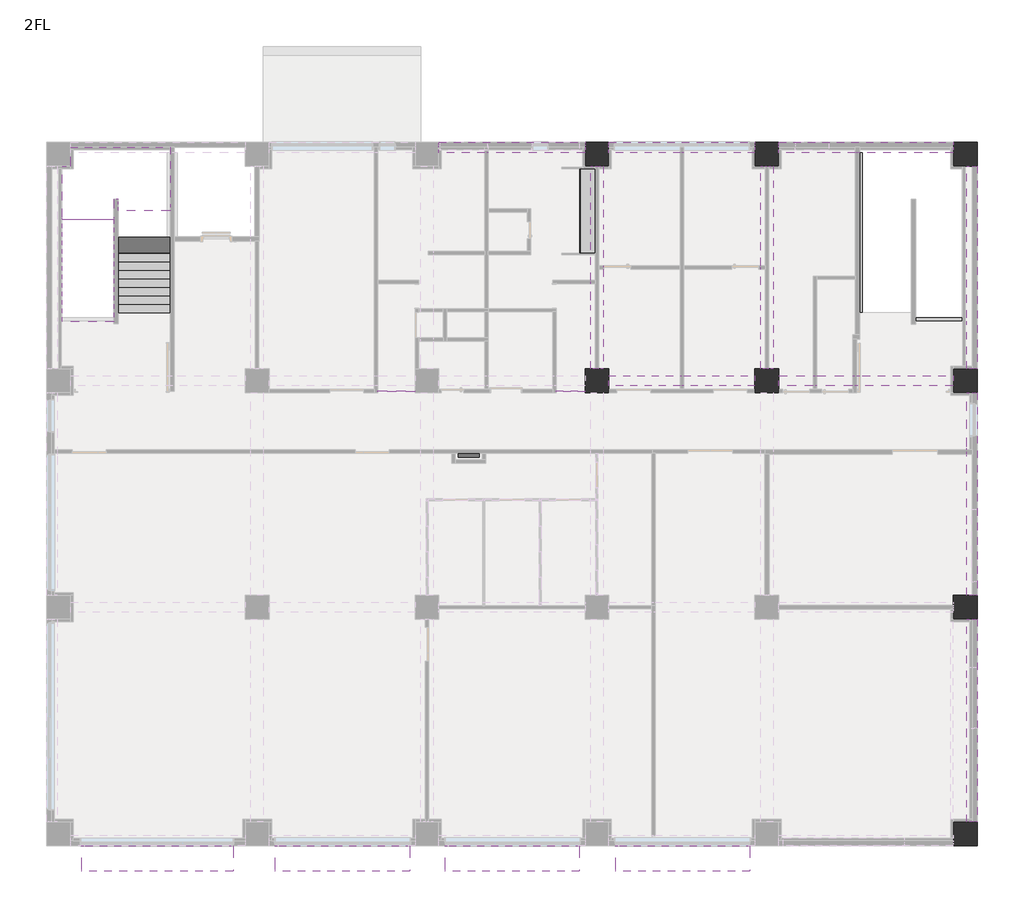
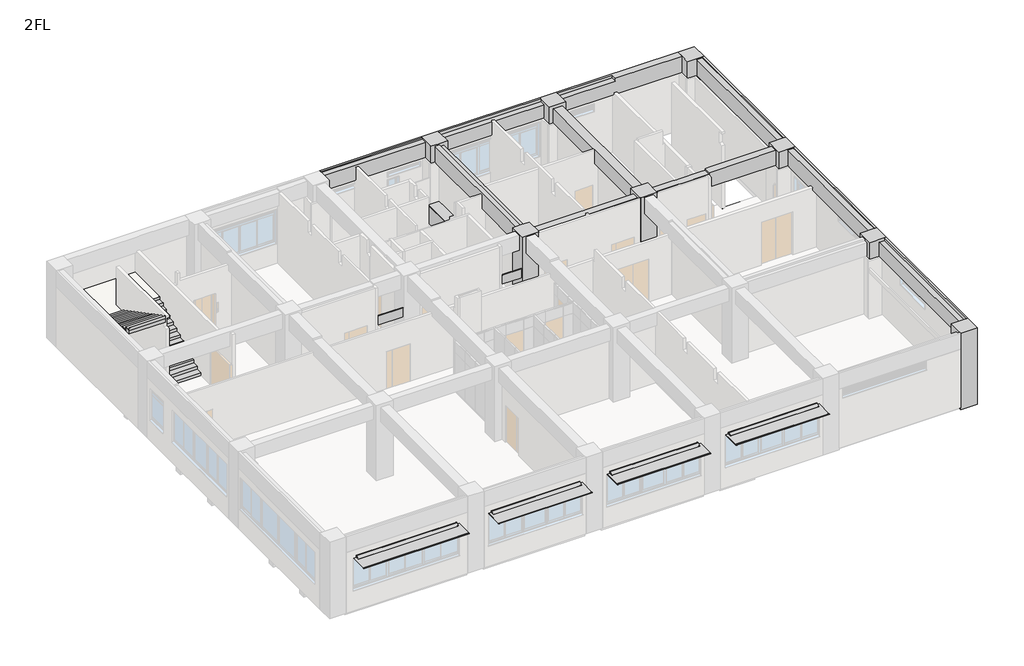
# One storey, part 7 of 7: 16 beams, 8 columns, 7 proxies, 2 stair flights, 1 flow terminal, 1 slab.
"""IFC4 building model written with IfcOpenShell, lengths in millimetres."""

from ifc_helpers import new_model, si_unit, frame, origin, place, context, project, spatial, polyline, outline, extrude, faceted_brep, transform, mapped, element, save
from components import generic_models_889831fe, generic_models_706210b3, specialty_equipment_ac76b24c, generic_models_8fc78ecc, generic_models_3a1368d3, flow_terminal_46fab2b1

model = new_model("IFC4")

# Units and contexts
model_context = context("Model", 3, world=origin())
ifc_project = project(units=[si_unit("LENGTHUNIT", "METRE", prefix="MILLI")], contexts=[model_context])

# Site, building, storey
site = spatial("IfcSite", under=ifc_project)
building = spatial("IfcBuilding", under=site)
storey = spatial("IfcBuildingStorey", under=building, Name="2FL", Elevation=4100.0)

# Beams
placement = place(None, origin())
element("IfcBeam", 1, ObjectType="営_RC梁 : 2-RG2 350*850", at=placement, inside=storey, context=model_context, shape_type="Brep", body=[
    faceted_brep([(19420.0, 15825.0, 7250.0), (21940.0, 15825.0, 7250.0), (22060.0, 15825.0, 7250.0), (24580.0, 15825.0, 7250.0), (24580.0, 15825.0, 7950.0), (19420.0, 15825.0, 7950.0), (19420.0, 16175.0, 7250.0), (21940.0, 16175.0, 7250.0), (22060.0, 16175.0, 7250.0), (24580.0, 16175.0, 7250.0), (19420.0, 16175.0, 7950.0), (24580.0, 16175.0, 7950.0)], [[[0, 1, 2, 3, 4, 5]], [[0, 6, 7, 8, 9, 3, 2, 1]], [[9, 8, 7, 6, 10, 11]], [[6, 0, 5, 10]], [[3, 9, 11, 4]], [[5, 4, 11, 10]]]),
])
element("IfcBeam", 2, ObjectType="営_RC梁 : 2-RG2 350*850", at=placement, inside=storey, context=model_context, shape_type="Brep", body=[
    faceted_brep([(25420.0, 15825.0, 7250.0), (26640.0, 15825.0, 7250.0), (26760.0, 15825.0, 7250.0), (28025.0, 15825.0, 7250.0), (28175.0, 15825.0, 7250.0), (31580.0, 15825.0, 7250.0), (31580.0, 15825.0, 8040.0), (28200.0, 15825.0, 8040.0), (28200.0, 15825.0, 7950.0), (28175.0, 15825.0, 7950.0), (28025.0, 15825.0, 7950.0), (26760.0, 15825.0, 7950.0), (26640.0, 15825.0, 7950.0), (25420.0, 15825.0, 7950.0), (25420.0, 16175.0, 7250.0), (26640.0, 16175.0, 7250.0), (26760.0, 16175.0, 7250.0), (28025.0, 16175.0, 7250.0), (28175.0, 16175.0, 7250.0), (31580.0, 16175.0, 7250.0), (25420.0, 16175.0, 7950.0), (26640.0, 16175.0, 7950.0), (26760.0, 16175.0, 7950.0), (28024.0, 16175.0, 7950.0), (28200.0, 16175.0, 7950.0), (28200.0, 16175.0, 8040.0), (28374.0, 16175.0, 8040.0), (31580.0, 16175.0, 8040.0)], [[[0, 1, 2, 3, 4, 5, 6, 7, 8, 9, 10, 11, 12, 13]], [[0, 14, 15, 16, 17, 18, 19, 5, 4, 3, 2, 1]], [[19, 18, 17, 16, 15, 14, 20, 21, 22, 23, 24, 25, 26, 27]], [[14, 0, 13, 20]], [[5, 19, 27, 6]], [[7, 6, 27, 26, 25]], [[8, 24, 23, 22, 21, 20, 13, 12, 11, 10, 9]], [[24, 8, 7, 25]]]),
])
element("IfcBeam", 3, ObjectType="営_RC梁 : 2-RG1 350*850", at=placement, inside=storey, context=model_context, shape_type="Brep", body=[
    faceted_brep([(18580.0, 24050.0, 7250.0), (18580.0, 24250.0, 7250.0), (18580.0, 24420.0, 7250.0), (18580.0, 24420.0, 8100.0), (18580.0, 24335.0, 8100.0), (18580.0, 24335.0, 8040.0), (18580.0, 24050.0, 8040.0), (13420.0, 24420.0, 8100.0), (13420.0, 24420.0, 7250.0), (13420.0, 24250.0, 7250.0), (13420.0, 24050.0, 7250.0), (13420.0, 24050.0, 8040.0), (13420.0, 24335.0, 8040.0), (13420.0, 24335.0, 8100.0), (15040.0, 24050.0, 7250.0), (15160.0, 24050.0, 7250.0)], [[[0, 1, 2, 3, 4, 5, 6]], [[7, 8, 9, 10, 11, 12, 13]], [[10, 14, 15, 0, 6, 11]], [[2, 1, 0, 15, 14, 10, 9, 8]], [[3, 2, 8, 7]], [[3, 7, 13, 4]], [[5, 12, 11, 6]], [[12, 5, 4, 13]]]),
])
element("IfcBeam", 4, ObjectType="営_RC梁 : 2-RG1 350*850", at=placement, inside=storey, context=model_context, shape_type="Brep", body=[
    faceted_brep([(24580.0, 24050.0, 7250.0), (24580.0, 24250.0, 7250.0), (24580.0, 24420.0, 7250.0), (24580.0, 24420.0, 8100.0), (24580.0, 24335.0, 8100.0), (24580.0, 24335.0, 7950.0), (24580.0, 24050.0, 7950.0), (19420.0, 24420.0, 8100.0), (19420.0, 24420.0, 7250.0), (19420.0, 24250.0, 7250.0), (19420.0, 24050.0, 7250.0), (19420.0, 24050.0, 7950.0), (19420.0, 24335.0, 7950.0), (19420.0, 24335.0, 8100.0), (21940.0, 24050.0, 7250.0), (22060.0, 24050.0, 7250.0)], [[[0, 1, 2, 3, 4, 5, 6]], [[7, 8, 9, 10, 11, 12, 13]], [[10, 14, 15, 0, 6, 11]], [[2, 1, 0, 15, 14, 10, 9, 8]], [[3, 2, 8, 7]], [[3, 7, 13, 4]], [[5, 12, 11, 6]], [[12, 5, 4, 13]]]),
])
element("IfcBeam", 5, ObjectType="営_RC梁 : 2-RG1 350*850", at=placement, inside=storey, context=model_context, shape_type="Brep", body=[
    faceted_brep([(31580.0, 24050.0, 8100.0), (31580.0, 24050.0, 7250.0), (31580.0, 24250.0, 7250.0), (31580.0, 24420.0, 7250.0), (31580.0, 24420.0, 8100.0), (25420.0, 24420.0, 8100.0), (25420.0, 24420.0, 7250.0), (25420.0, 24250.0, 7250.0), (25420.0, 24050.0, 7250.0), (25420.0, 24050.0, 7950.0), (25420.0, 24335.0, 7950.0), (25420.0, 24335.0, 8100.0), (28200.0, 24050.0, 8100.0), (28200.0, 24050.0, 7950.0), (28125.0, 24050.0, 7250.0), (28275.0, 24050.0, 7250.0), (28200.0, 24335.0, 8100.0), (28200.0, 24335.0, 7950.0)], [[[0, 1, 2, 3, 4]], [[5, 6, 7, 8, 9, 10, 11]], [[1, 0, 12, 13, 9, 8, 14, 15]], [[3, 2, 1, 15, 14, 8, 7, 6]], [[4, 3, 6, 5]], [[0, 4, 5, 11, 16, 12]], [[13, 17, 10, 9]], [[17, 16, 11, 10]], [[16, 17, 13, 12]]]),
])
element("IfcBeam", 6, ObjectType="営_RC梁 : 2-4G12 450*900", at=placement, inside=storey, context=model_context, shape_type="Brep", body=[
    faceted_brep([(19225.0, 16420.0, 7200.0), (19225.0, 19940.0, 7200.0), (19225.0, 20060.0, 7200.0), (19225.0, 23580.0, 7200.0), (19225.0, 23580.0, 7950.0), (19225.0, 21515.0, 7950.0), (19225.0, 21165.0, 7950.0), (19225.0, 20060.0, 7950.0), (19225.0, 19940.0, 7950.0), (19225.0, 18845.0, 7950.0), (19225.0, 18495.0, 7950.0), (19225.0, 16420.0, 7950.0), (19060.0, 16420.0, 7200.0), (18940.0, 16420.0, 7200.0), (18775.0, 16420.0, 7200.0), (18775.0, 19430.0, 7200.0), (18775.0, 19550.0, 7200.0), (18775.0, 23580.0, 7200.0), (18940.0, 23580.0, 7200.0), (19060.0, 23580.0, 7200.0), (18775.0, 16420.0, 8040.0), (18775.0, 18495.0, 8040.0), (18775.0, 18845.0, 8040.0), (18775.0, 21165.0, 8040.0), (18775.0, 21515.0, 8040.0), (18775.0, 23580.0, 8040.0), (19000.0, 16420.0, 7950.0), (19000.0, 16420.0, 8040.0), (19000.0, 23580.0, 8040.0), (19000.0, 23580.0, 7950.0)], [[[0, 1, 2, 3, 4, 5, 6, 7, 8, 9, 10, 11]], [[0, 12, 13, 14, 15, 16, 17, 18, 19, 3, 2, 1]], [[17, 16, 15, 14, 20, 21, 22, 23, 24, 25]], [[14, 13, 12, 0, 11, 26, 27, 20]], [[3, 19, 18, 17, 25, 28, 29, 4]], [[25, 24, 23, 22, 21, 20, 27, 28]], [[29, 26, 11, 10, 9, 8, 7, 6, 5, 4]], [[26, 29, 28, 27]]]),
])
element("IfcBeam", 7, ObjectType="営_RC梁 : 2-4G12 450*900", at=placement, inside=storey, context=model_context, shape_type="Brep", body=[
    faceted_brep([(25225.0, 16420.0, 7200.0), (25225.0, 23580.0, 7200.0), (25225.0, 23580.0, 7950.0), (25225.0, 16420.0, 7950.0), (25060.0, 16420.0, 7200.0), (24940.0, 16420.0, 7200.0), (24775.0, 16420.0, 7200.0), (24775.0, 19940.0, 7200.0), (24775.0, 20060.0, 7200.0), (24775.0, 23580.0, 7200.0), (24940.0, 23580.0, 7200.0), (25060.0, 23580.0, 7200.0), (24775.0, 16420.0, 7950.0), (24775.0, 18495.0, 7950.0), (24775.0, 18845.0, 7950.0), (24775.0, 19940.0, 7950.0), (24775.0, 20060.0, 7950.0), (24775.0, 21165.0, 7950.0), (24775.0, 21515.0, 7950.0), (24775.0, 23580.0, 7950.0)], [[[0, 1, 2, 3]], [[0, 4, 5, 6, 7, 8, 9, 10, 11, 1]], [[9, 8, 7, 6, 12, 13, 14, 15, 16, 17, 18, 19]], [[6, 5, 4, 0, 3, 12]], [[1, 11, 10, 9, 19, 2]], [[3, 2, 19, 18, 17, 16, 15, 14, 13, 12]]]),
])
element("IfcBeam", 8, ObjectType="営_RC梁 : 2-RG11 350*900", at=placement, inside=storey, context=model_context, shape_type="Brep", body=[
    faceted_brep([(32420.0, 7580.0, 8100.0), (32420.0, 7580.0, 7200.0), (32250.0, 7580.0, 7200.0), (32050.0, 7580.0, 7200.0), (32050.0, 7580.0, 7950.0), (32325.0, 7580.0, 7950.0), (32325.0, 7580.0, 8100.0), (32050.0, 420.0, 7200.0), (32250.0, 420.0, 7200.0), (32420.0, 420.0, 7200.0), (32420.0, 420.0, 8100.0), (32325.0, 420.0, 8100.0), (32325.0, 420.0, 7950.0), (32050.0, 420.0, 7950.0), (32050.0, 2485.0, 7950.0), (32050.0, 2835.0, 7950.0), (32050.0, 5155.0, 7950.0), (32050.0, 5505.0, 7950.0)], [[[0, 1, 2, 3, 4, 5, 6]], [[7, 8, 9, 10, 11, 12, 13]], [[1, 0, 10, 9]], [[3, 2, 1, 9, 8, 7]], [[3, 7, 13, 14, 15, 16, 17, 4]], [[10, 0, 6, 11]], [[12, 5, 4, 17, 16, 15, 14, 13]], [[5, 12, 11, 6]]]),
])
element("IfcBeam", 9, ObjectType="営_RC梁 : 2-RG11 350*900", at=placement, inside=storey, context=model_context, shape_type="Brep", body=[
    faceted_brep([(32420.0, 15580.0, 8100.0), (32420.0, 15580.0, 7200.0), (32250.0, 15580.0, 7200.0), (32050.0, 15580.0, 7200.0), (32050.0, 15580.0, 8040.0), (32250.0, 15580.0, 8040.0), (32325.0, 15580.0, 8040.0), (32325.0, 15580.0, 8100.0), (32050.0, 8420.0, 7200.0), (32250.0, 8420.0, 7200.0), (32420.0, 8420.0, 7200.0), (32420.0, 8420.0, 8100.0), (32325.0, 8420.0, 8100.0), (32325.0, 8420.0, 8040.0), (32250.0, 8420.0, 8040.0), (32050.0, 8420.0, 8040.0), (32050.0, 13410.0, 7200.0), (32050.0, 13560.0, 7200.0), (32050.0, 10575.0, 8040.0), (32050.0, 10925.0, 8040.0), (32050.0, 13325.0, 8040.0), (32050.0, 13675.0, 8040.0)], [[[0, 1, 2, 3, 4, 5, 6, 7]], [[8, 9, 10, 11, 12, 13, 14, 15]], [[1, 0, 11, 10]], [[3, 2, 1, 10, 9, 8, 16, 17]], [[3, 17, 16, 8, 15, 18, 19, 20, 21, 4]], [[11, 0, 7, 12]], [[13, 6, 5, 4, 21, 20, 19, 18, 15, 14]], [[6, 13, 12, 7]]]),
])
element("IfcBeam", 10, ObjectType="営_RC梁 : 2-RG11 350*900", at=placement, inside=storey, context=model_context, shape_type="Brep", body=[
    faceted_brep([(32420.0, 23580.0, 8100.0), (32420.0, 23580.0, 7200.0), (32250.0, 23580.0, 7200.0), (32050.0, 23580.0, 7200.0), (32050.0, 23580.0, 8040.0), (32250.0, 23580.0, 8040.0), (32325.0, 23580.0, 8040.0), (32325.0, 23580.0, 8100.0), (32050.0, 16420.0, 7200.0), (32250.0, 16420.0, 7200.0), (32420.0, 16420.0, 7200.0), (32420.0, 16420.0, 8100.0), (32325.0, 16420.0, 8100.0), (32325.0, 16420.0, 8040.0), (32250.0, 16420.0, 8040.0), (32050.0, 16420.0, 8040.0), (32050.0, 17975.0, 8040.0), (32050.0, 18225.0, 8040.0), (32325.0, 16669.8819845, 8100.0), (32325.0, 16669.8819845, 8040.0)], [[[0, 1, 2, 3, 4, 5, 6, 7]], [[8, 9, 10, 11, 12, 13, 14, 15]], [[1, 0, 11, 10]], [[3, 2, 1, 10, 9, 8]], [[3, 8, 15, 16, 17, 4]], [[11, 0, 7, 18, 12]], [[19, 6, 5, 4, 17, 16, 15, 14, 13]], [[19, 13, 12, 18]], [[6, 19, 18, 7]]]),
])
element("IfcBeam", 11, ObjectType="営_RC梁 : B4 350*750", at=placement, inside=storey, context=model_context, shape_type="Brep", body=[
    faceted_brep([(28374.0, 16175.0, 4000.0), (28374.0, 16175.0, 3250.0), (28374.0, 24050.0, 3250.0), (28374.0, 24050.0, 4000.0), (28374.0, 18225.0, 4000.0), (28374.0, 17975.0, 4000.0), (28024.0, 16175.0, 3250.0), (28024.0, 24050.0, 3250.0), (28024.0, 16175.0, 4000.0), (28024.0, 24050.0, 4000.0)], [[[0, 1, 2, 3, 4, 5]], [[1, 6, 7, 2]], [[6, 8, 9, 7]], [[8, 0, 5, 4, 3, 9]], [[1, 0, 8, 6]], [[3, 2, 7, 9]]]),
])
element("IfcBeam", 12, ObjectType="営_RC梁 : B3 250*600", at=placement, inside=storey, context=model_context, shape_type="SweptSolid", body=[
    extrude(outline(polyline([(28374.0, 17975.0), (28374.0, 18225.0), (32050.0, 18225.0), (32050.0, 17975.0), (28374.0, 17975.0)])), frame((0.0, 0.0, 3400.0), z_axis=(0.0, 0.0, 1.0), x_axis=(1.0, 0.0, 0.0)), (0.0, 0.0, 1.0), 600.0),
])
element("IfcBeam", 13, ObjectType="営_RC梁 : B1 350*750", at=placement, inside=storey, context=model_context, shape_type="SweptSolid", body=[
    extrude(outline(polyline([(19225.0, 18495.0), (19225.0, 18845.0), (24775.0, 18845.0), (24775.0, 18495.0), (19225.0, 18495.0)])), frame((0.0, 0.0, 3250.0), z_axis=(0.0, 0.0, 1.0), x_axis=(1.0, 0.0, 0.0)), (0.0, 0.0, 1.0), 690.0),
])
element("IfcBeam", 14, ObjectType="営_RC梁 : B1 350*750", at=placement, inside=storey, context=model_context, shape_type="SweptSolid", body=[
    extrude(outline(polyline([(19225.0, 21165.0), (19225.0, 21515.0), (24775.0, 21515.0), (24775.0, 21165.0), (19225.0, 21165.0)])), frame((0.0, 0.0, 3250.0), z_axis=(0.0, 0.0, 1.0), x_axis=(1.0, 0.0, 0.0)), (0.0, 0.0, 1.0), 690.0),
])
element("IfcBeam", 15, ObjectType="営_RC梁 : B1 350*750", at=placement, inside=storey, context=model_context, shape_type="Brep", body=[
    faceted_brep([(13225.0, 18495.0, 3250.0), (13570.0, 18495.0, 3250.0), (13690.0, 18495.0, 3250.0), (15160.0, 18495.0, 3250.0), (17560.0, 18495.0, 3250.0), (18775.0, 18495.0, 3250.0), (18775.0, 18495.0, 3940.0), (13225.0, 18495.0, 3940.0), (13225.0, 18495.0, 3850.0), (13225.0, 18550.0, 3250.0), (13225.0, 18845.0, 3250.0), (15040.0, 18845.0, 3250.0), (15160.0, 18845.0, 3250.0), (17440.0, 18845.0, 3250.0), (17560.0, 18845.0, 3250.0), (18775.0, 18845.0, 3250.0), (13225.0, 18845.0, 3940.0), (18775.0, 18845.0, 3940.0)], [[[0, 1, 2, 3, 4, 5, 6, 7, 8]], [[0, 9, 10, 11, 12, 13, 14, 15, 5, 4, 3, 2, 1]], [[15, 14, 13, 12, 11, 10, 16, 17]], [[10, 9, 0, 8, 7, 16]], [[5, 15, 17, 6]], [[7, 6, 17, 16]]]),
])
element("IfcBeam", 16, ObjectType="営_RC梁 : B1 350*750", at=placement, inside=storey, context=model_context, shape_type="Brep", body=[
    faceted_brep([(13225.0, 21165.0, 3250.0), (15040.0, 21165.0, 3250.0), (15160.0, 21165.0, 3250.0), (16540.0, 21165.0, 3250.0), (16660.0, 21165.0, 3250.0), (18775.0, 21165.0, 3250.0), (18775.0, 21165.0, 3940.0), (13225.0, 21165.0, 3940.0), (13225.0, 21515.0, 3250.0), (15040.0, 21515.0, 3250.0), (15160.0, 21515.0, 3250.0), (16540.0, 21515.0, 3250.0), (16660.0, 21515.0, 3250.0), (18775.0, 21515.0, 3250.0), (13225.0, 21515.0, 3940.0), (18775.0, 21515.0, 3940.0)], [[[0, 1, 2, 3, 4, 5, 6, 7]], [[0, 8, 9, 10, 11, 12, 13, 5, 4, 3, 2, 1]], [[13, 12, 11, 10, 9, 8, 14, 15]], [[8, 0, 7, 14]], [[5, 13, 15, 6]], [[7, 6, 15, 14]]]),
])

# Proxies
generic_models_shape = generic_models_889831fe(model_context)
element("IfcBuildingElementProxy", 17, Name="営_付庇_窓 : 付庇", ObjectType="営_付庇_窓 : 付庇", at=placement, inside=storey, context=model_context, shape_type="MappedRepresentation", body=[
    mapped(generic_models_shape, transform((3476.2951348, -420.0, 4100.0), x_axis=(1.0, 0.0, 0.0), y_axis=(0.0, 1.0, 0.0), z_axis=(0.0, 0.0, 1.0))),
])
generic_models_2_shape = generic_models_706210b3(model_context)
element("IfcBuildingElementProxy", 18, Name="営_付庇_窓 : 付庇", ObjectType="営_付庇_窓 : 付庇", at=placement, inside=storey, context=model_context, shape_type="MappedRepresentation", body=[
    mapped(generic_models_2_shape, transform((10011.2951348, -420.0, 4100.0), x_axis=(1.0, 0.0, 0.0), y_axis=(0.0, 1.0, 0.0), z_axis=(0.0, 0.0, 1.0))),
])
element("IfcBuildingElementProxy", 19, Name="営_付庇_窓 : 付庇", ObjectType="営_付庇_窓 : 付庇", at=placement, inside=storey, context=model_context, shape_type="MappedRepresentation", body=[
    mapped(generic_models_2_shape, transform((16011.2951348, -420.0, 4100.0), x_axis=(1.0, 0.0, 0.0), y_axis=(0.0, 1.0, 0.0), z_axis=(0.0, 0.0, 1.0))),
])
element("IfcBuildingElementProxy", 20, Name="営_付庇_窓 : 付庇", ObjectType="営_付庇_窓 : 付庇", at=placement, inside=storey, context=model_context, shape_type="MappedRepresentation", body=[
    mapped(generic_models_2_shape, transform((22031.2951348, -420.0, 4100.0), x_axis=(1.0, 0.0, 0.0), y_axis=(0.0, 1.0, 0.0), z_axis=(0.0, 0.0, 1.0))),
])
specialty_equipment_shape = specialty_equipment_ac76b24c(model_context)
element("IfcBuildingElementProxy", 21, Name="営_屋内消火栓 : 屋内消火栓", ObjectType="営_屋内消火栓 : 屋内消火栓", at=placement, inside=storey, context=model_context, shape_type="MappedRepresentation", body=[
    mapped(specialty_equipment_shape, transform((14470.0, 13550.0, 4100.0), x_axis=(1.0, 0.0, 0.0), y_axis=(0.0, 1.0, 0.0), z_axis=(0.0, 0.0, 1.0))),
])
generic_models_3_shape = generic_models_8fc78ecc(model_context)
element("IfcBuildingElementProxy", 22, Name="防煙垂壁 : 可動防煙垂壁", ObjectType="防煙垂壁 : 可動防煙垂壁", at=placement, inside=storey, context=model_context, shape_type="MappedRepresentation", body=[
    mapped(generic_models_3_shape, transform((12580.0, 15630.0, 4100.0), x_axis=(-1.0, 0.0, 0.0), y_axis=(0.0, -1.0, 0.0), z_axis=(0.0, 0.0, 1.0))),
])
generic_models_4_shape = generic_models_3a1368d3(model_context)
element("IfcBuildingElementProxy", 23, Name="防煙垂壁 : 可動防煙垂壁", ObjectType="防煙垂壁 : 可動防煙垂壁", at=placement, inside=storey, context=model_context, shape_type="MappedRepresentation", body=[
    mapped(generic_models_4_shape, transform((18580.0, 15630.0, 4100.0), x_axis=(-1.0, 0.0, 0.0), y_axis=(0.0, -1.0, 0.0), z_axis=(0.0, 0.0, 1.0))),
])

# Columns
element("IfcColumn", 24, ObjectType="営_RC柱_角 : 800*800", at=placement, inside=storey, context=model_context, shape_type="Brep", body=[
    faceted_brep([(32420.0, 420.0, 4000.0), (32420.0, -420.0, 4000.0), (31580.0, -420.0, 4000.0), (31580.0, 420.0, 4000.0), (32250.0, 420.0, 4000.0), (32325.0, 420.0, 4000.0), (32420.0, 420.0, 8100.0), (32420.0, -420.0, 8100.0), (32420.0, 420.0, 7200.0), (31580.0, -420.0, 8100.0), (31580.0, -420.0, 7250.0), (31580.0, -420.0, 4090.0), (31580.0, -325.0, 8100.0), (31580.0, 420.0, 8100.0), (31580.0, 420.0, 7950.0), (31580.0, 420.0, 4090.0), (32325.0, 420.0, 8100.0)], [[[0, 1, 2, 3, 4, 5]], [[6, 7, 1, 0, 8]], [[7, 9, 10, 11, 2, 1]], [[9, 12, 13, 14, 15, 3, 2, 11, 10]], [[13, 16, 6, 8, 0, 5, 4, 3, 15, 14]], [[6, 16, 13, 12, 9, 7]]]),
])
element("IfcColumn", 25, ObjectType="営_RC柱_角 : 800*800", at=placement, inside=storey, context=model_context, shape_type="Brep", body=[
    faceted_brep([(32420.0, 8420.0, 4000.0), (32420.0, 7580.0, 4000.0), (32325.0, 7580.0, 4000.0), (32250.0, 7580.0, 4000.0), (31580.0, 7580.0, 4000.0), (31580.0, 8420.0, 4000.0), (32250.0, 8420.0, 4000.0), (32325.0, 8420.0, 4000.0), (32420.0, 8420.0, 8100.0), (32420.0, 7580.0, 8100.0), (32420.0, 7580.0, 7200.0), (32420.0, 8420.0, 7200.0), (32325.0, 7580.0, 8100.0), (31580.0, 7580.0, 8100.0), (31580.0, 7580.0, 7950.0), (31580.0, 7580.0, 4090.0), (31580.0, 8000.0, 8100.0), (31580.0, 8420.0, 8100.0), (31580.0, 8420.0, 8040.0), (31580.0, 8420.0, 4090.0), (32325.0, 8420.0, 8100.0)], [[[0, 1, 2, 3, 4, 5, 6, 7]], [[8, 9, 10, 1, 0, 11]], [[9, 12, 13, 14, 15, 4, 3, 2, 1, 10]], [[13, 16, 17, 18, 19, 5, 4, 15, 14]], [[17, 20, 8, 11, 0, 7, 6, 5, 19, 18]], [[8, 20, 17, 16, 13, 12, 9]]]),
])
element("IfcColumn", 26, ObjectType="営_RC柱_角 : 800*800", at=placement, inside=storey, context=model_context, shape_type="Brep", body=[
    faceted_brep([(19420.0, 16420.0, 4000.0), (19420.0, 15580.0, 4000.0), (18580.0, 15580.0, 4000.0), (18580.0, 16420.0, 4000.0), (19420.0, 16420.0, 8100.0), (19420.0, 15640.0, 8100.0), (19420.0, 15580.0, 8100.0), (19420.0, 15580.0, 8040.0), (19420.0, 15580.0, 4100.0), (19420.0, 15580.0, 4090.0), (19420.0, 16420.0, 4090.0), (19420.0, 16420.0, 7950.0), (18580.0, 15580.0, 8100.0), (18580.0, 15580.0, 8040.0), (18580.0, 15580.0, 4090.0), (18580.0, 16420.0, 8100.0), (18580.0, 16420.0, 8040.0), (18580.0, 16420.0, 4090.0), (19000.0, 16420.0, 8100.0)], [[[0, 1, 2, 3]], [[4, 5, 6, 7, 8, 9, 1, 0, 10, 11]], [[6, 12, 13, 14, 2, 1, 9, 8, 7]], [[12, 15, 16, 17, 3, 2, 14, 13]], [[15, 18, 4, 11, 10, 0, 3, 17, 16]], [[4, 18, 15, 12, 6, 5]]]),
])
element("IfcColumn", 27, ObjectType="営_RC柱_角 : 800*800", at=placement, inside=storey, context=model_context, shape_type="Brep", body=[
    faceted_brep([(25420.0, 16420.0, 4000.0), (25420.0, 15580.0, 4000.0), (24580.0, 15580.0, 4000.0), (24580.0, 16420.0, 4000.0), (25420.0, 16420.0, 8100.0), (25420.0, 15640.0, 8100.0), (25420.0, 15580.0, 8100.0), (25420.0, 15580.0, 8040.0), (25420.0, 15580.0, 4100.0), (25420.0, 15580.0, 4090.0), (25420.0, 16420.0, 4090.0), (25420.0, 16420.0, 7950.0), (24580.0, 15580.0, 8100.0), (24580.0, 15580.0, 8040.0), (24580.0, 15580.0, 4100.0), (24580.0, 15580.0, 4090.0), (24580.0, 15640.0, 8100.0), (24580.0, 16420.0, 8100.0), (24580.0, 16420.0, 7950.0), (24580.0, 16420.0, 4090.0)], [[[0, 1, 2, 3]], [[4, 5, 6, 7, 8, 9, 1, 0, 10, 11]], [[6, 12, 13, 14, 15, 2, 1, 9, 8, 7]], [[12, 16, 17, 18, 19, 3, 2, 15, 14, 13]], [[17, 4, 11, 10, 0, 3, 19, 18]], [[4, 17, 16, 12, 6, 5]]]),
])
element("IfcColumn", 28, ObjectType="営_RC柱_角 : 800*800", at=placement, inside=storey, context=model_context, shape_type="Brep", body=[
    faceted_brep([(32420.0, 16420.0, 4000.0), (32420.0, 15580.0, 4000.0), (32325.0, 15580.0, 4000.0), (32250.0, 15580.0, 4000.0), (31580.0, 15580.0, 4000.0), (31580.0, 16420.0, 4000.0), (32250.0, 16420.0, 4000.0), (32325.0, 16420.0, 4000.0), (32420.0, 16420.0, 8100.0), (32420.0, 15580.0, 8100.0), (32420.0, 15580.0, 7200.0), (32420.0, 16420.0, 7200.0), (32325.0, 15580.0, 8100.0), (31580.0, 15580.0, 8100.0), (31580.0, 15580.0, 8040.0), (31580.0, 15580.0, 4090.0), (31580.0, 16420.0, 8100.0), (31580.0, 16420.0, 8040.0), (31580.0, 16420.0, 4090.0), (32325.0, 16420.0, 8100.0)], [[[0, 1, 2, 3, 4, 5, 6, 7]], [[8, 9, 10, 1, 0, 11]], [[9, 12, 13, 14, 15, 4, 3, 2, 1, 10]], [[13, 16, 17, 18, 5, 4, 15, 14]], [[16, 19, 8, 11, 0, 7, 6, 5, 18, 17]], [[8, 19, 16, 13, 12, 9]]]),
])
element("IfcColumn", 29, ObjectType="営_RC柱_角 : 800*800", at=placement, inside=storey, context=model_context, shape_type="Brep", body=[
    faceted_brep([(19420.0, 24420.0, 4000.0), (19420.0, 24335.0, 4000.0), (19420.0, 24250.0, 4000.0), (19420.0, 23580.0, 4000.0), (18580.0, 23580.0, 4000.0), (18580.0, 24250.0, 4000.0), (18580.0, 24335.0, 4000.0), (18580.0, 24420.0, 4000.0), (19420.0, 24420.0, 8100.0), (19420.0, 24335.0, 8100.0), (19420.0, 23580.0, 8100.0), (19420.0, 23580.0, 7950.0), (19420.0, 23580.0, 4090.0), (19420.0, 24420.0, 7250.0), (19000.0, 23580.0, 8100.0), (18580.0, 23580.0, 8100.0), (18580.0, 23580.0, 8040.0), (18580.0, 23580.0, 4090.0), (18580.0, 24335.0, 8100.0), (18580.0, 24420.0, 8100.0), (18580.0, 24420.0, 7250.0)], [[[0, 1, 2, 3, 4, 5, 6, 7]], [[8, 9, 10, 11, 12, 3, 2, 1, 0, 13]], [[10, 14, 15, 16, 17, 4, 3, 12, 11]], [[15, 18, 19, 20, 7, 6, 5, 4, 17, 16]], [[19, 8, 13, 0, 7, 20]], [[8, 19, 18, 15, 14, 10, 9]]]),
])
element("IfcColumn", 30, ObjectType="営_RC柱_角 : 800*800", at=placement, inside=storey, context=model_context, shape_type="Brep", body=[
    faceted_brep([(25420.0, 24420.0, 4000.0), (25420.0, 24335.0, 4000.0), (25420.0, 24250.0, 4000.0), (25420.0, 23580.0, 4000.0), (24580.0, 23580.0, 4000.0), (24580.0, 24250.0, 4000.0), (24580.0, 24335.0, 4000.0), (24580.0, 24420.0, 4000.0), (25420.0, 24420.0, 8100.0), (25420.0, 24335.0, 8100.0), (25420.0, 23580.0, 8100.0), (25420.0, 23580.0, 7950.0), (25420.0, 23580.0, 4090.0), (25420.0, 24420.0, 7250.0), (24580.0, 23580.0, 8100.0), (24580.0, 23580.0, 7950.0), (24580.0, 23580.0, 4090.0), (24580.0, 24335.0, 8100.0), (24580.0, 24420.0, 8100.0), (24580.0, 24420.0, 7250.0)], [[[0, 1, 2, 3, 4, 5, 6, 7]], [[8, 9, 10, 11, 12, 3, 2, 1, 0, 13]], [[10, 14, 15, 16, 4, 3, 12, 11]], [[14, 17, 18, 19, 7, 6, 5, 4, 16, 15]], [[18, 8, 13, 0, 7, 19]], [[8, 18, 17, 14, 10, 9]]]),
])
element("IfcColumn", 31, ObjectType="営_RC柱_角 : 800*800", at=placement, inside=storey, context=model_context, shape_type="Brep", body=[
    faceted_brep([(32420.0, 24420.0, 4000.0), (32420.0, 23580.0, 4000.0), (32325.0, 23580.0, 4000.0), (31580.0, 23580.0, 4000.0), (31580.0, 24250.0, 4000.0), (31580.0, 24420.0, 4000.0), (32420.0, 24420.0, 8100.0), (32420.0, 23580.0, 8100.0), (32420.0, 23580.0, 7200.0), (32325.0, 23580.0, 8100.0), (31580.0, 23580.0, 8100.0), (31580.0, 24050.0, 8100.0), (31580.0, 24420.0, 8100.0), (31580.0, 24420.0, 7250.0)], [[[0, 1, 2, 3, 4, 5]], [[6, 7, 8, 1, 0]], [[7, 9, 10, 3, 2, 1, 8]], [[10, 11, 12, 13, 5, 4, 3]], [[12, 6, 0, 5, 13]], [[6, 12, 11, 10, 9, 7]]]),
])

# Flow terminal
flow_terminal_shape = flow_terminal_46fab2b1(model_context)
element("IfcFlowTerminal", 32, ObjectType="ライニング : ライニング", at=placement, inside=storey, context=model_context, shape_type="MappedRepresentation", body=[
    mapped(flow_terminal_shape, transform((19000.0, 21870.0, 4100.0), x_axis=(0.0, 1.0, 0.0), y_axis=(-1.0, 0.0, 0.0), z_axis=(0.0, 0.0, 1.0))),
])

# Slab
element("IfcSlab", 33, ObjectType="200+20", at=placement, inside=storey, context=model_context, shape_type="Brep", body=[
    faceted_brep([(115.0, 21700.0, 6130.0), (115.0, 21680.0, 6130.0), (1945.0, 21680.0, 6130.0), (1945.0, 21700.0, 6130.0), (1945.0, 21776.1491315, 6130.0), (1945.0, 22410.0, 6130.0), (2095.0, 22410.0, 6130.0), (2095.0, 22223.8508685, 6130.0), (2095.0, 22020.0, 6130.0), (3925.0, 22020.0, 6130.0), (3925.0, 22223.8508685, 6130.0), (3925.0, 24250.0, 6130.0), (420.0, 24250.0, 6130.0), (420.0, 23580.0, 6130.0), (115.0, 23580.0, 6130.0), (115.0, 21776.1491315, 6130.0), (2095.0, 22020.0, 5972.3076923), (2095.0, 22020.0, 5802.8476204), (3925.0, 22020.0, 5802.8476204), (3925.0, 22020.0, 5972.3076923), (3925.0, 22223.8508685, 5910.0), (3925.0, 24250.0, 5910.0), (420.0, 24250.0, 5910.0), (115.0, 21700.0, 5950.0271076), (115.0, 23580.0, 5910.0), (115.0, 21776.1491315, 5910.0), (115.0, 21680.0, 5960.5399281), (1945.0, 21680.0, 5960.5399281), (1945.0, 21700.0, 5950.0271076), (1945.0, 21776.1491315, 5910.0), (1945.0, 22410.0, 5910.0), (2095.0, 22223.8508685, 5910.0), (2095.0, 22410.0, 5910.0), (420.0, 23580.0, 5910.0)], [[[0, 1, 2, 3, 4, 5, 6, 7, 8, 9, 10, 11, 12, 13, 14, 15]], [[9, 8, 16, 17, 18, 19]], [[9, 19, 18, 20, 21, 11, 10]], [[12, 11, 21, 22]], [[23, 0, 15, 14, 24, 25]], [[2, 1, 26, 27]], [[3, 28, 29, 30, 5, 4]], [[20, 31, 32, 30, 29, 25, 24, 33, 22, 21]], [[31, 20, 18, 17]], [[25, 29, 28, 27, 26, 23]], [[6, 5, 30, 32]], [[6, 32, 31, 17, 16, 8, 7]], [[13, 12, 22, 33]], [[14, 13, 33, 24]], [[1, 0, 23, 26]], [[3, 2, 27, 28]]]),
    faceted_brep([(115.0, 21700.0, 6150.0), (1945.0, 21700.0, 6150.0), (1945.0, 22410.0, 6150.0), (2095.0, 22410.0, 6150.0), (2095.0, 22000.0, 6150.0), (3925.0, 22000.0, 6150.0), (3925.0, 24250.0, 6150.0), (420.0, 24250.0, 6150.0), (420.0, 23580.0, 6150.0), (115.0, 23580.0, 6150.0), (115.0, 21700.0, 6130.0), (115.0, 23580.0, 6130.0), (420.0, 23580.0, 6130.0), (420.0, 24250.0, 6130.0), (3925.0, 24250.0, 6130.0), (3925.0, 22020.0, 6130.0), (3925.0, 22000.0, 6130.0), (2095.0, 22000.0, 6130.0), (2095.0, 22020.0, 6130.0), (2095.0, 22410.0, 6130.0), (1945.0, 22410.0, 6130.0), (1945.0, 21700.0, 6130.0)], [[[0, 1, 2, 3, 4, 5, 6, 7, 8, 9]], [[10, 11, 12, 13, 14, 15, 16, 17, 18, 19, 20, 21]], [[1, 0, 10, 21]], [[2, 1, 21, 20]], [[3, 2, 20, 19]], [[4, 3, 19, 18, 17]], [[5, 4, 17, 16]], [[6, 5, 16, 15, 14]], [[7, 6, 14, 13]], [[8, 7, 13, 12]], [[9, 8, 12, 11]], [[0, 9, 11, 10]]]),
])

# Stair flights
element("IfcStairFlight", 34, ObjectType="150+20", at=placement, inside=storey, context=model_context, shape_type="SolidModel", body=[
    faceted_brep([(2095.0, 18720.0, 4237.6923077), (2095.0, 18420.0, 4237.6923077), (3925.0, 18420.0, 4237.6923077), (3925.0, 18720.0, 4237.6923077), (2095.0, 18720.0, 4100.0), (2095.0, 18420.0, 4100.0), (3925.0, 18420.0, 4100.0), (3925.0, 18720.0, 4100.0), (2095.0, 19020.0, 4395.3846154), (2095.0, 18720.0, 4395.3846154), (3925.0, 18720.0, 4395.3846154), (3925.0, 19020.0, 4395.3846154), (2095.0, 19020.0, 4225.9245435), (2095.0, 18780.4362344, 4100.0), (3925.0, 18780.4362344, 4100.0), (3925.0, 19020.0, 4225.9245435), (2095.0, 19320.0, 4553.0769231), (2095.0, 19020.0, 4553.0769231), (3925.0, 19020.0, 4553.0769231), (3925.0, 19320.0, 4553.0769231), (2095.0, 19320.0, 4383.6168512), (3925.0, 19320.0, 4383.6168512), (2095.0, 19620.0, 4710.7692308), (2095.0, 19320.0, 4710.7692308), (3925.0, 19320.0, 4710.7692308), (3925.0, 19620.0, 4710.7692308), (2095.0, 19620.0, 4541.3091588), (3925.0, 19620.0, 4541.3091588), (2095.0, 19920.0, 4868.4615385), (2095.0, 19620.0, 4868.4615385), (3925.0, 19620.0, 4868.4615385), (3925.0, 19920.0, 4868.4615385), (2095.0, 19920.0, 4699.0014665), (3925.0, 19920.0, 4699.0014665), (2095.0, 20220.0, 5026.1538462), (2095.0, 19920.0, 5026.1538462), (3925.0, 19920.0, 5026.1538462), (3925.0, 20220.0, 5026.1538462), (2095.0, 20220.0, 4856.6937742), (3925.0, 20220.0, 4856.6937742), (2095.0, 20520.0, 5183.8461538), (2095.0, 20220.0, 5183.8461538), (3925.0, 20220.0, 5183.8461538), (3925.0, 20520.0, 5183.8461538), (2095.0, 20520.0, 5014.3860819), (3925.0, 20520.0, 5014.3860819), (2095.0, 20820.0, 5341.5384615), (2095.0, 20520.0, 5341.5384615), (3925.0, 20520.0, 5341.5384615), (3925.0, 20820.0, 5341.5384615), (2095.0, 20820.0, 5172.0783896), (3925.0, 20820.0, 5172.0783896), (2095.0, 21120.0, 5499.2307692), (2095.0, 20820.0, 5499.2307692), (3925.0, 20820.0, 5499.2307692), (3925.0, 21120.0, 5499.2307692), (2095.0, 21120.0, 5329.7706973), (3925.0, 21120.0, 5329.7706973), (2095.0, 21420.0, 5656.9230769), (2095.0, 21120.0, 5656.9230769), (3925.0, 21120.0, 5656.9230769), (3925.0, 21420.0, 5656.9230769), (2095.0, 21420.0, 5487.463005), (3925.0, 21420.0, 5487.463005), (2095.0, 21720.0, 5814.6153846), (2095.0, 21420.0, 5814.6153846), (3925.0, 21420.0, 5814.6153846), (3925.0, 21720.0, 5814.6153846), (2095.0, 21720.0, 5645.1553127), (3925.0, 21720.0, 5645.1553127), (2095.0, 21720.0, 5972.3076923), (3925.0, 21720.0, 5972.3076923), (3925.0, 22000.0, 5972.3076923), (3925.0, 22020.0, 5972.3076923), (2095.0, 22020.0, 5972.3076923), (2095.0, 22000.0, 5972.3076923), (2095.0, 22020.0, 5802.8476204), (2095.0, 22000.0, 5792.3347999), (3925.0, 22000.0, 5792.3347999), (3925.0, 22020.0, 5802.8476204)], [[[0, 1, 2, 3]], [[1, 0, 4, 5]], [[2, 1, 5, 6]], [[3, 2, 6, 7]], [[8, 9, 10, 11]], [[4, 0, 9, 8, 12, 13]], [[0, 3, 10, 9]], [[3, 7, 14, 15, 11, 10]], [[16, 17, 18, 19]], [[17, 16, 20, 12, 8]], [[8, 11, 18, 17]], [[19, 18, 11, 15, 21]], [[22, 23, 24, 25]], [[23, 22, 26, 20, 16]], [[16, 19, 24, 23]], [[25, 24, 19, 21, 27]], [[28, 29, 30, 31]], [[29, 28, 32, 26, 22]], [[22, 25, 30, 29]], [[31, 30, 25, 27, 33]], [[34, 35, 36, 37]], [[35, 34, 38, 32, 28]], [[28, 31, 36, 35]], [[37, 36, 31, 33, 39]], [[40, 41, 42, 43]], [[41, 40, 44, 38, 34]], [[34, 37, 42, 41]], [[43, 42, 37, 39, 45]], [[46, 47, 48, 49]], [[47, 46, 50, 44, 40]], [[40, 43, 48, 47]], [[49, 48, 43, 45, 51]], [[52, 53, 54, 55]], [[53, 52, 56, 50, 46]], [[46, 49, 54, 53]], [[55, 54, 49, 51, 57]], [[58, 59, 60, 61]], [[59, 58, 62, 56, 52]], [[52, 55, 60, 59]], [[61, 60, 55, 57, 63]], [[64, 65, 66, 67]], [[65, 64, 68, 62, 58]], [[58, 61, 66, 65]], [[67, 66, 61, 63, 69]], [[70, 71, 72, 73, 74, 75]], [[64, 70, 75, 74, 76, 77, 68]], [[64, 67, 71, 70]], [[71, 67, 69, 78, 79, 73, 72]], [[74, 73, 79, 76]], [[5, 4, 13, 14, 7, 6]], [[14, 13, 12, 20, 26, 32, 38, 44, 50, 56, 62, 68, 77, 76, 79, 78, 69, 63, 57, 51, 45, 39, 33, 27, 21, 15]]]),
    extrude(outline(polyline([(18420.0, 4237.6923077), (18420.0, 4100.0), (18400.0, 4100.0), (18400.0, 4257.6923077), (18700.0, 4257.6923077), (18700.0, 4415.3846154), (19000.0, 4415.3846154), (19000.0, 4573.0769231), (19300.0, 4573.0769231), (19300.0, 4730.7692308), (19600.0, 4730.7692308), (19600.0, 4888.4615385), (19900.0, 4888.4615385), (19900.0, 5046.1538462), (20200.0, 5046.1538462), (20200.0, 5203.8461538), (20500.0, 5203.8461538), (20500.0, 5361.5384615), (20800.0, 5361.5384615), (20800.0, 5519.2307692), (21100.0, 5519.2307692), (21100.0, 5676.9230769), (21400.0, 5676.9230769), (21400.0, 5834.6153846), (21700.0, 5834.6153846), (21700.0, 5992.3076923), (22000.0, 5992.3076923), (22000.0, 6130.0), (22020.0, 6130.0), (22020.0, 5972.3076923), (21720.0, 5972.3076923), (21720.0, 5814.6153846), (21420.0, 5814.6153846), (21420.0, 5656.9230769), (21120.0, 5656.9230769), (21120.0, 5499.2307692), (20820.0, 5499.2307692), (20820.0, 5341.5384615), (20520.0, 5341.5384615), (20520.0, 5183.8461538), (20220.0, 5183.8461538), (20220.0, 5026.1538462), (19920.0, 5026.1538462), (19920.0, 4868.4615385), (19620.0, 4868.4615385), (19620.0, 4710.7692308), (19320.0, 4710.7692308), (19320.0, 4553.0769231), (19020.0, 4553.0769231), (19020.0, 4395.3846154), (18720.0, 4395.3846154), (18720.0, 4237.6923077), (18420.0, 4237.6923077)])), frame((2095.0, 0.0, 0.0), z_axis=(1.0, 0.0, 0.0), x_axis=(0.0, 1.0, 0.0)), (0.0, 0.0, 1.0), 1830.0),
])
element("IfcStairFlight", 35, ObjectType="150+20", at=placement, inside=storey, context=model_context, shape_type="Brep", body=[
    faceted_brep([(1945.0, 21380.0, 6287.6923077), (1945.0, 21680.0, 6287.6923077), (115.0, 21680.0, 6287.6923077), (115.0, 21380.0, 6287.6923077), (1945.0, 21380.0, 6118.2322358), (1945.0, 21680.0, 5960.5399281), (1945.0, 21680.0, 6130.0), (115.0, 21680.0, 5960.5399281), (115.0, 21680.0, 6130.0), (115.0, 21380.0, 6118.2322358), (1945.0, 21080.0, 6445.3846154), (1945.0, 21380.0, 6445.3846154), (115.0, 21380.0, 6445.3846154), (115.0, 21080.0, 6445.3846154), (1945.0, 21080.0, 6275.9245435), (115.0, 21080.0, 6275.9245435), (1945.0, 20780.0, 6603.0769231), (1945.0, 21080.0, 6603.0769231), (115.0, 21080.0, 6603.0769231), (115.0, 20780.0, 6603.0769231), (1945.0, 20780.0, 6433.6168512), (115.0, 20780.0, 6433.6168512), (1945.0, 20480.0, 6760.7692308), (1945.0, 20780.0, 6760.7692308), (115.0, 20780.0, 6760.7692308), (115.0, 20480.0, 6760.7692308), (1945.0, 20480.0, 6591.3091588), (115.0, 20480.0, 6591.3091588), (1945.0, 20180.0, 6918.4615385), (1945.0, 20480.0, 6918.4615385), (115.0, 20480.0, 6918.4615385), (115.0, 20180.0, 6918.4615385), (1945.0, 20180.0, 6749.0014665), (115.0, 20180.0, 6749.0014665), (1945.0, 19880.0, 7076.1538462), (1945.0, 20180.0, 7076.1538462), (115.0, 20180.0, 7076.1538462), (115.0, 19880.0, 7076.1538462), (1945.0, 19880.0, 6906.6937742), (115.0, 19880.0, 6906.6937742), (1945.0, 19580.0, 7233.8461538), (1945.0, 19880.0, 7233.8461538), (115.0, 19880.0, 7233.8461538), (115.0, 19580.0, 7233.8461538), (1945.0, 19580.0, 7064.3860819), (115.0, 19580.0, 7064.3860819), (1945.0, 19280.0, 7391.5384615), (1945.0, 19580.0, 7391.5384615), (115.0, 19580.0, 7391.5384615), (115.0, 19280.0, 7391.5384615), (1945.0, 19280.0, 7222.0783896), (115.0, 19280.0, 7222.0783896), (1945.0, 18980.0, 7549.2307692), (1945.0, 19280.0, 7549.2307692), (115.0, 19280.0, 7549.2307692), (115.0, 18980.0, 7549.2307692), (1945.0, 18980.0, 7379.7706973), (115.0, 18980.0, 7379.7706973), (1945.0, 18680.0, 7706.9230769), (1945.0, 18980.0, 7706.9230769), (115.0, 18980.0, 7706.9230769), (115.0, 18680.0, 7706.9230769), (1945.0, 18680.0, 7537.463005), (115.0, 18680.0, 7537.463005), (1945.0, 18380.0, 7864.6153846), (1945.0, 18680.0, 7864.6153846), (115.0, 18680.0, 7864.6153846), (115.0, 18380.0, 7864.6153846), (1945.0, 18380.0, 7695.1553127), (115.0, 18380.0, 7695.1553127), (1945.0, 18080.0, 7852.8476204), (115.0, 18080.0, 7852.8476204), (1945.0, 18080.0, 8022.3076923), (1945.0, 18380.0, 8022.3076923), (115.0, 18380.0, 8022.3076923), (115.0, 18080.0, 8022.3076923)], [[[0, 1, 2, 3]], [[1, 0, 4, 5, 6]], [[2, 1, 6, 5, 7, 8]], [[3, 2, 8, 7, 9]], [[10, 11, 12, 13]], [[11, 10, 14, 4, 0]], [[12, 11, 0, 3]], [[13, 12, 3, 9, 15]], [[16, 17, 18, 19]], [[17, 16, 20, 14, 10]], [[18, 17, 10, 13]], [[19, 18, 13, 15, 21]], [[22, 23, 24, 25]], [[23, 22, 26, 20, 16]], [[24, 23, 16, 19]], [[25, 24, 19, 21, 27]], [[28, 29, 30, 31]], [[29, 28, 32, 26, 22]], [[30, 29, 22, 25]], [[31, 30, 25, 27, 33]], [[34, 35, 36, 37]], [[35, 34, 38, 32, 28]], [[36, 35, 28, 31]], [[37, 36, 31, 33, 39]], [[40, 41, 42, 43]], [[41, 40, 44, 38, 34]], [[42, 41, 34, 37]], [[43, 42, 37, 39, 45]], [[46, 47, 48, 49]], [[47, 46, 50, 44, 40]], [[48, 47, 40, 43]], [[49, 48, 43, 45, 51]], [[52, 53, 54, 55]], [[53, 52, 56, 50, 46]], [[54, 53, 46, 49]], [[55, 54, 49, 51, 57]], [[58, 59, 60, 61]], [[59, 58, 62, 56, 52]], [[60, 59, 52, 55]], [[61, 60, 55, 57, 63]], [[64, 65, 66, 67]], [[65, 64, 68, 62, 58]], [[66, 65, 58, 61]], [[67, 66, 61, 63, 69]], [[5, 4, 14, 20, 26, 32, 38, 44, 50, 56, 62, 68, 70, 71, 69, 63, 57, 51, 45, 39, 33, 27, 21, 15, 9, 7]], [[72, 73, 74, 75]], [[73, 72, 70, 68, 64]], [[74, 73, 64, 67]], [[75, 74, 67, 69, 71]], [[72, 75, 71, 70]]]),
    faceted_brep([(115.0, 21700.0, 6130.0), (115.0, 21680.0, 6130.0), (115.0, 21680.0, 6287.6923077), (115.0, 21380.0, 6287.6923077), (115.0, 21380.0, 6445.3846154), (115.0, 21080.0, 6445.3846154), (115.0, 21080.0, 6603.0769231), (115.0, 20780.0, 6603.0769231), (115.0, 20780.0, 6760.7692308), (115.0, 20480.0, 6760.7692308), (115.0, 20480.0, 6918.4615385), (115.0, 20180.0, 6918.4615385), (115.0, 20180.0, 7076.1538462), (115.0, 19880.0, 7076.1538462), (115.0, 19880.0, 7233.8461538), (115.0, 19580.0, 7233.8461538), (115.0, 19580.0, 7391.5384615), (115.0, 19280.0, 7391.5384615), (115.0, 19280.0, 7549.2307692), (115.0, 18980.0, 7549.2307692), (115.0, 18980.0, 7706.9230769), (115.0, 18680.0, 7706.9230769), (115.0, 18680.0, 7864.6153846), (115.0, 18380.0, 7864.6153846), (115.0, 18380.0, 8022.3076923), (115.0, 18080.0, 8022.3076923), (115.0, 18080.0, 8180.0), (115.0, 18100.0, 8180.0), (115.0, 18100.0, 8042.3076923), (115.0, 18400.0, 8042.3076923), (115.0, 18400.0, 7884.6153846), (115.0, 18700.0, 7884.6153846), (115.0, 18700.0, 7726.9230769), (115.0, 19000.0, 7726.9230769), (115.0, 19000.0, 7569.2307692), (115.0, 19300.0, 7569.2307692), (115.0, 19300.0, 7411.5384615), (115.0, 19600.0, 7411.5384615), (115.0, 19600.0, 7253.8461538), (115.0, 19900.0, 7253.8461538), (115.0, 19900.0, 7096.1538462), (115.0, 20200.0, 7096.1538462), (115.0, 20200.0, 6938.4615385), (115.0, 20500.0, 6938.4615385), (115.0, 20500.0, 6780.7692308), (115.0, 20800.0, 6780.7692308), (115.0, 20800.0, 6623.0769231), (115.0, 21100.0, 6623.0769231), (115.0, 21100.0, 6465.3846154), (115.0, 21400.0, 6465.3846154), (115.0, 21400.0, 6307.6923077), (115.0, 21700.0, 6307.6923077), (115.0, 21700.0, 6150.0), (1945.0, 21680.0, 6287.6923077), (1945.0, 21680.0, 6130.0), (1945.0, 21700.0, 6130.0), (1945.0, 21700.0, 6150.0), (1945.0, 21700.0, 6307.6923077), (1945.0, 21400.0, 6307.6923077), (1945.0, 21400.0, 6465.3846154), (1945.0, 21100.0, 6465.3846154), (1945.0, 21100.0, 6623.0769231), (1945.0, 20800.0, 6623.0769231), (1945.0, 20800.0, 6780.7692308), (1945.0, 20500.0, 6780.7692308), (1945.0, 20500.0, 6938.4615385), (1945.0, 20200.0, 6938.4615385), (1945.0, 20200.0, 7096.1538462), (1945.0, 19900.0, 7096.1538462), (1945.0, 19900.0, 7253.8461538), (1945.0, 19600.0, 7253.8461538), (1945.0, 19600.0, 7411.5384615), (1945.0, 19300.0, 7411.5384615), (1945.0, 19300.0, 7569.2307692), (1945.0, 19000.0, 7569.2307692), (1945.0, 19000.0, 7726.9230769), (1945.0, 18700.0, 7726.9230769), (1945.0, 18700.0, 7884.6153846), (1945.0, 18400.0, 7884.6153846), (1945.0, 18400.0, 8042.3076923), (1945.0, 18100.0, 8042.3076923), (1945.0, 18100.0, 8180.0), (1945.0, 18080.0, 8180.0), (1945.0, 18080.0, 8022.3076923), (1945.0, 18380.0, 8022.3076923), (1945.0, 18380.0, 7864.6153846), (1945.0, 18680.0, 7864.6153846), (1945.0, 18680.0, 7706.9230769), (1945.0, 18980.0, 7706.9230769), (1945.0, 18980.0, 7549.2307692), (1945.0, 19280.0, 7549.2307692), (1945.0, 19280.0, 7391.5384615), (1945.0, 19580.0, 7391.5384615), (1945.0, 19580.0, 7233.8461538), (1945.0, 19880.0, 7233.8461538), (1945.0, 19880.0, 7076.1538462), (1945.0, 20180.0, 7076.1538462), (1945.0, 20180.0, 6918.4615385), (1945.0, 20480.0, 6918.4615385), (1945.0, 20480.0, 6760.7692308), (1945.0, 20780.0, 6760.7692308), (1945.0, 20780.0, 6603.0769231), (1945.0, 21080.0, 6603.0769231), (1945.0, 21080.0, 6445.3846154), (1945.0, 21380.0, 6445.3846154), (1945.0, 21380.0, 6287.6923077)], [[[0, 1, 2, 3, 4, 5, 6, 7, 8, 9, 10, 11, 12, 13, 14, 15, 16, 17, 18, 19, 20, 21, 22, 23, 24, 25, 26, 27, 28, 29, 30, 31, 32, 33, 34, 35, 36, 37, 38, 39, 40, 41, 42, 43, 44, 45, 46, 47, 48, 49, 50, 51, 52]], [[53, 54, 55, 56, 57, 58, 59, 60, 61, 62, 63, 64, 65, 66, 67, 68, 69, 70, 71, 72, 73, 74, 75, 76, 77, 78, 79, 80, 81, 82, 83, 84, 85, 86, 87, 88, 89, 90, 91, 92, 93, 94, 95, 96, 97, 98, 99, 100, 101, 102, 103, 104, 105]], [[55, 0, 52, 51, 57, 56]], [[1, 0, 55, 54]], [[2, 1, 54, 53]], [[58, 57, 51, 50]], [[2, 53, 105, 3]], [[58, 50, 49, 59]], [[4, 3, 105, 104]], [[60, 59, 49, 48]], [[4, 104, 103, 5]], [[60, 48, 47, 61]], [[6, 5, 103, 102]], [[62, 61, 47, 46]], [[6, 102, 101, 7]], [[62, 46, 45, 63]], [[8, 7, 101, 100]], [[64, 63, 45, 44]], [[8, 100, 99, 9]], [[64, 44, 43, 65]], [[10, 9, 99, 98]], [[66, 65, 43, 42]], [[10, 98, 97, 11]], [[66, 42, 41, 67]], [[12, 11, 97, 96]], [[68, 67, 41, 40]], [[12, 96, 95, 13]], [[68, 40, 39, 69]], [[14, 13, 95, 94]], [[70, 69, 39, 38]], [[14, 94, 93, 15]], [[70, 38, 37, 71]], [[16, 15, 93, 92]], [[72, 71, 37, 36]], [[16, 92, 91, 17]], [[72, 36, 35, 73]], [[18, 17, 91, 90]], [[74, 73, 35, 34]], [[18, 90, 89, 19]], [[74, 34, 33, 75]], [[20, 19, 89, 88]], [[76, 75, 33, 32]], [[20, 88, 87, 21]], [[76, 32, 31, 77]], [[22, 21, 87, 86]], [[78, 77, 31, 30]], [[22, 86, 85, 23]], [[79, 78, 30, 29]], [[24, 23, 85, 84]], [[80, 79, 29, 28]], [[27, 81, 80, 28]], [[25, 24, 84, 83]], [[26, 25, 83, 82]], [[27, 26, 82, 81]]]),
])

save(model, "model.ifc")
